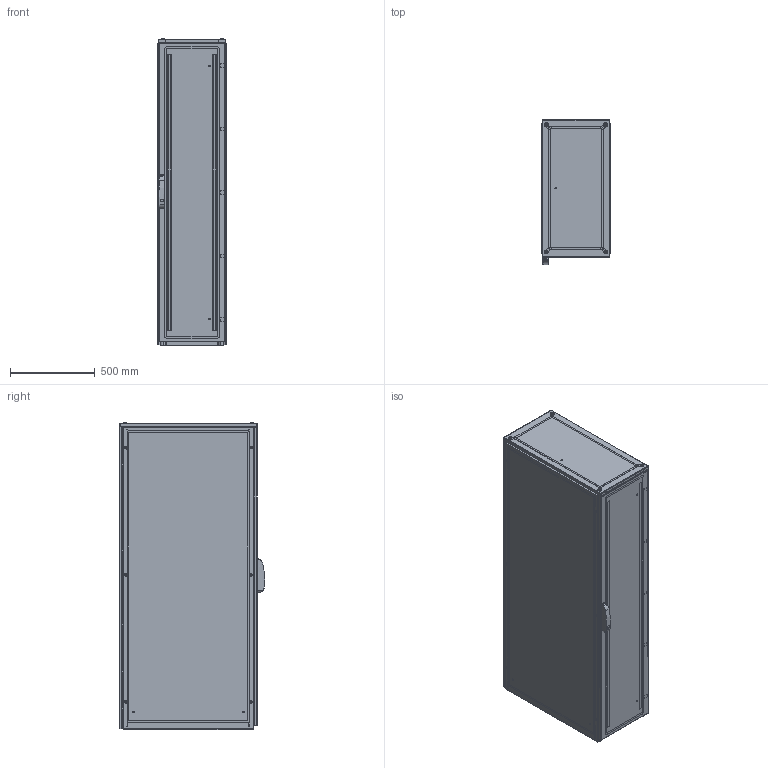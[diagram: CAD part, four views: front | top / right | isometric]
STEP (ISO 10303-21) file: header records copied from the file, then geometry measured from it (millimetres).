
FILE_DESCRIPTION(/* description */ ('STEP AP214'),/* implementation_level */ '2;1');
FILE_NAME(/* name */ 'ENUX041808PR-LOD350',/* time_stamp */ '2025-08-04T14:08:15+02:00',/* author */ ('License CC BY-ND 4.0'),/* organization */ ('CADENAS'),/* preprocessor_version */ 'ST-DEVELOPER v19.3',/* originating_system */ 'PARTsolutions',/* authorisation */ ' ');
FILE_SCHEMA (('AUTOMOTIVE_DESIGN {1 0 10303 214 3 1 1}'));
Length unit declared in the file: millimetre
Products named in the file (10): ENUX041808PR-LOD350; ENUX041808PR-LOD350_CON; ENUX041808PR-LOD350_floor1; ENUX041808PR-LOD350_floor2; Screw M12x30 architecture 350; ENUX041808PR-LOD350_side; ENUX041808PR-LOD350_top; ENUX041808PR-LOD350_back_door; ENUX041808PR-LOD350_door; ENUX041808PR-LOD350_handle
Assembly tree (18 placements, depth 2):
  ENUX041808PR-LOD350
    ENUX041808PR-LOD350_CON
    ENUX041808PR-LOD350_floor1  x2
    ENUX041808PR-LOD350_floor2  x5
    Screw M12x30 architecture 350  x4
    ENUX041808PR-LOD350_side  x2
    ENUX041808PR-LOD350_top
    ENUX041808PR-LOD350_back_door
    ENUX041808PR-LOD350_door
    ENUX041808PR-LOD350_handle
Bounding box: 412 x 857 x 1814.1 mm (x, y, z)
Volume: 18704141.3 mm3; surface area: 14994475.7 mm2
Topology: 18 solids, 18 shells, 1742 faces, 4851 edges, 3156 vertices
Faces by surface type: plane 906, cylinder 671, cone 77, torus 72, sphere 16
Full cylindrical faces by diameter (mm): 4.5 x96, 6 x14, 6.8 x8, 9 x9, 12 x16, 13 x4, 18 x1, 21 x4
Entity records: 42351 total; most frequent: CARTESIAN_POINT 7363, DIRECTION 7329, ORIENTED_EDGE 6888, EDGE_CURVE 3444, AXIS2_PLACEMENT_3D 2604, VERTEX_POINT 2397, LINE 2121, VECTOR 2121
